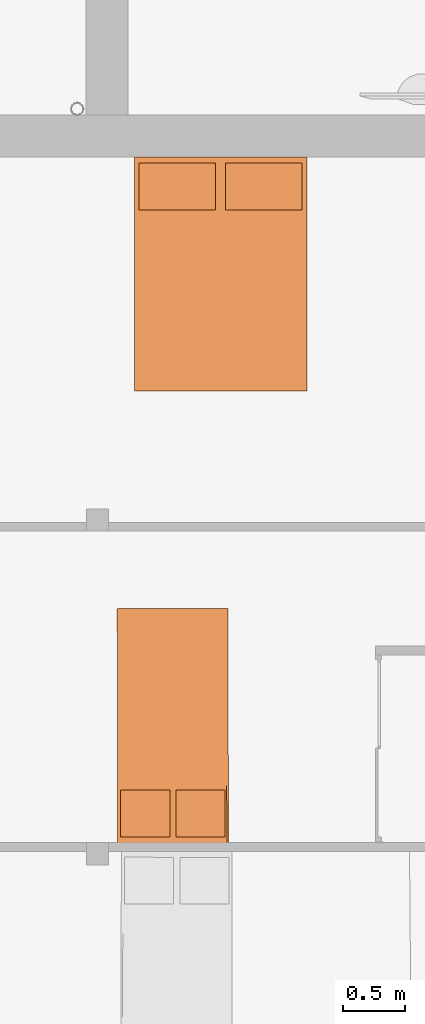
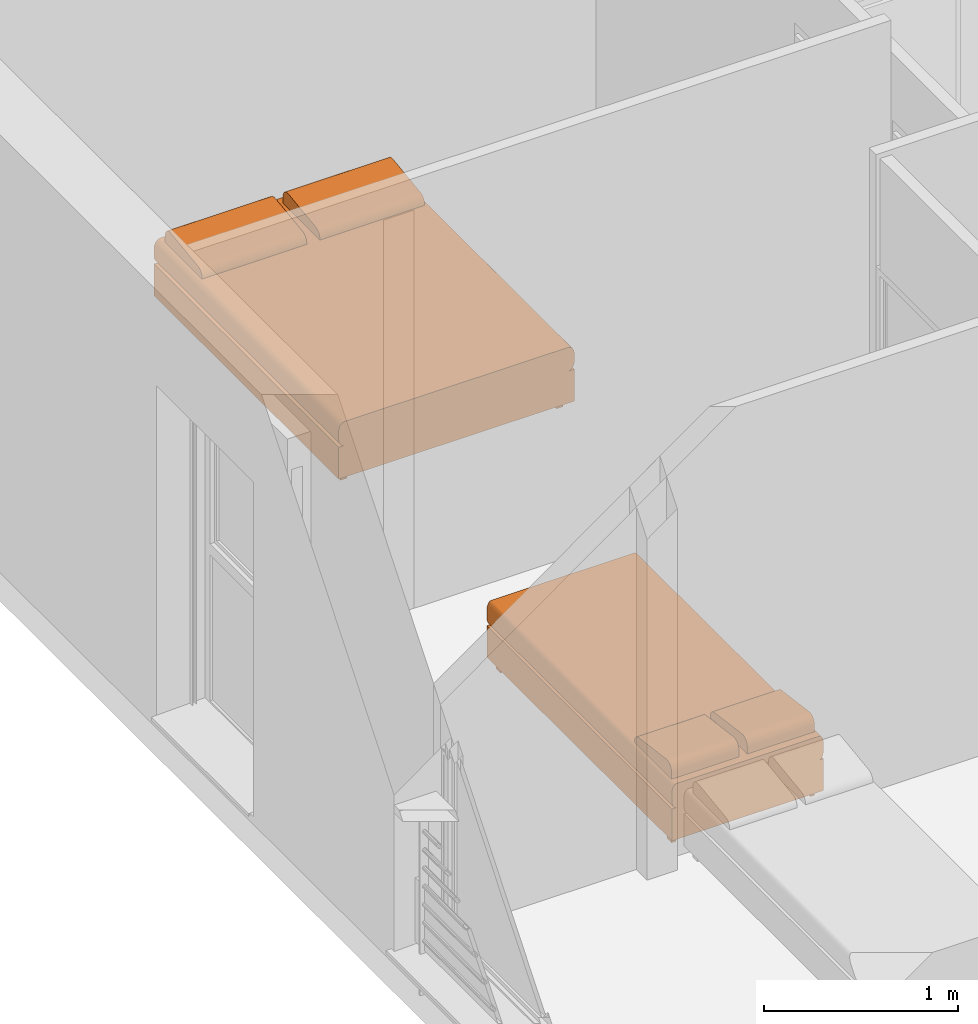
# One storey, part 149 of 171: 2 proxies.
"""IFC2X3 building model written with IfcOpenShell, lengths in millimetres."""

from ifc_helpers import new_model, entity, si_unit, converted_unit, derived_unit, money_unit, direction, frame, origin_with_axes, place, context, subcontext, project, spatial, open_shell, faceted_brep, surface_model, source, transform, mapped, type_object, element, save


model = new_model("IFC2X3")

# Units and contexts
model_context = context("Model", 3, precision=0.01, world=origin_with_axes(), true_north=direction((0.0, 1.0)))
body_context = subcontext(model_context, "Body", "Model", "MODEL_VIEW")
ifc_project = project(units=[si_unit("LENGTHUNIT", "METRE", prefix="MILLI"), si_unit("AREAUNIT", "SQUARE_METRE"), si_unit("VOLUMEUNIT", "CUBIC_METRE"), converted_unit("PLANEANGLEUNIT", "DEGREE", entity("IfcPlaneAngleMeasure", 0.0174532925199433), si_unit("PLANEANGLEUNIT", "RADIAN"), dimensions=[0, 0, 0, 0, 0, 0, 0]), money_unit("USD"), converted_unit("TIMEUNIT", "Year", entity("IfcTimeMeasure", 31557600.0), si_unit("TIMEUNIT", "SECOND"), dimensions=[0, 0, 1, 0, 0, 0, 0]), si_unit("MASSUNIT", "GRAM", prefix="KILO"), si_unit("THERMODYNAMICTEMPERATUREUNIT", "DEGREE_CELSIUS"), si_unit("LUMINOUSINTENSITYUNIT", "LUMEN"), si_unit("ENERGYUNIT", "JOULE", prefix="MEGA"), derived_unit("THERMALCONDUCTANCEUNIT", [(si_unit("POWERUNIT", "WATT"), 1), (si_unit("LENGTHUNIT", "METRE"), -1), (si_unit("THERMODYNAMICTEMPERATUREUNIT", "KELVIN"), -1)]), derived_unit("SPECIFICHEATCAPACITYUNIT", [(si_unit("ENERGYUNIT", "JOULE"), 1), (si_unit("MASSUNIT", "GRAM", prefix="KILO"), -1), (si_unit("THERMODYNAMICTEMPERATUREUNIT", "KELVIN"), -1)]), derived_unit("MASSDENSITYUNIT", [(si_unit("MASSUNIT", "GRAM", prefix="KILO"), 1), (si_unit("VOLUMEUNIT", "CUBIC_METRE"), -1)])], contexts=[model_context])

# Site, building, storey
site_placement = place(None, origin_with_axes())
site = spatial("IfcSite", under=ifc_project, at=site_placement, Name="Site", CompositionType="ELEMENT")
building_placement = place(site_placement, origin_with_axes())
building = spatial("IfcBuilding", under=site, at=building_placement, Name="Bâtiment", CompositionType="ELEMENT")
storey_placement = place(building_placement, frame((0.0, 0.0, 3000.0), z_axis=(0.0, 0.0, 1.0), x_axis=(1.0, 0.0, 0.0)))
storey = spatial("IfcBuildingStorey", under=building, at=storey_placement, Name="rdc", CompositionType="ELEMENT", Elevation=3000.0)

# Proxies
building_element_proxy_type = type_object("IfcBuildingElementProxyType", PredefinedType="NOTDEFINED")
shared_shape_1 = source(origin_with_axes(), body_context, "Body", "SurfaceModel", [
    faceted_brep([(-622.2222222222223, -95.0, 0.0), (-661.1111111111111, -95.0, 0.0), (-661.1111111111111, -47.5, 0.0), (-622.2222222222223, -47.5, 0.0), (-622.2222222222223, -95.0, 50.0), (-661.1111111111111, -95.0, 50.0), (-661.1111111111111, -47.5, 50.0), (-622.2222222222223, -47.5, 50.0)], [[[0, 1, 2, 3]], [[1, 0, 4, 5]], [[2, 1, 5, 6]], [[3, 2, 6, 7]], [[0, 3, 7, 4]], [[5, 4, 7, 6]]]),
    faceted_brep([(-622.2222222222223, -1852.5, 0.0), (-661.1111111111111, -1852.5, 0.0), (-661.1111111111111, -1805.0, 0.0), (-622.2222222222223, -1805.0, 0.0), (-622.2222222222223, -1852.5, 50.0), (-661.1111111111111, -1852.5, 50.0), (-661.1111111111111, -1805.0, 50.0), (-622.2222222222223, -1805.0, 50.0)], [[[0, 1, 2, 3]], [[1, 0, 4, 5]], [[2, 1, 5, 6]], [[3, 2, 6, 7]], [[0, 3, 7, 4]], [[5, 4, 7, 6]]]),
    faceted_brep([(661.111111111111, -1852.5, 0.0), (622.2222222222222, -1852.5, 0.0), (622.2222222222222, -1805.0, 0.0), (661.111111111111, -1805.0, 0.0), (661.111111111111, -1852.5, 50.0), (622.2222222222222, -1852.5, 50.0), (622.2222222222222, -1805.0, 50.0), (661.111111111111, -1805.0, 50.0)], [[[0, 1, 2, 3]], [[1, 0, 4, 5]], [[2, 1, 5, 6]], [[3, 2, 6, 7]], [[0, 3, 7, 4]], [[5, 4, 7, 6]]]),
    faceted_brep([(661.111111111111, -94.99999999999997, 0.0), (622.2222222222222, -94.99999999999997, 0.0), (622.2222222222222, -47.49999999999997, 0.0), (661.111111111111, -47.49999999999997, 0.0), (661.111111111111, -94.99999999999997, 50.0), (622.2222222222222, -94.99999999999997, 50.0), (622.2222222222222, -47.49999999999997, 50.0), (661.111111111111, -47.49999999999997, 50.0)], [[[0, 1, 2, 3]], [[1, 0, 4, 5]], [[2, 1, 5, 6]], [[3, 2, 6, 7]], [[0, 3, 7, 4]], [[5, 4, 7, 6]]]),
    faceted_brep([(-700.0, 0.0, 50.0), (700.0, 0.0, 50.0), (700.0, -1900.0, 50.00000000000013), (-700.0, -1900.0, 50.00000000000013), (-700.0, 0.0, 250.0), (700.0, 0.0, 250.0), (700.0, -1900.0, 250.0000000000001), (-700.0, -1900.0, 250.0000000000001)], [[[0, 1, 2, 3]], [[0, 4, 5, 1]], [[1, 5, 6, 2]], [[3, 2, 6, 7]], [[4, 0, 3, 7]], [[5, 4, 7, 6]]]),
    surface_model("IfcShellBasedSurfaceModel", [(661.1111111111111, 0.0, 250.0), (667.8640957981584, 0.0, 250.7596123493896), (667.8640957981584, -1900.0, 250.7596123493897), (661.1111111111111, -1900.0, 250.0000000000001), (-661.1111111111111, 0.0, 250.0), (-667.8640957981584, 0.0, 250.7596123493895), (-674.4118944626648, 0.0, 253.0153689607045), (-680.5555555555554, 0.0, 256.698729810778), (-686.1084070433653, 0.0, 261.6977778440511), (-690.9017283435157, 0.0, 267.860619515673), (-694.7898768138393, 0.0, 275.0), (-697.654713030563, 0.0, 282.8989928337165), (-699.4091903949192, 0.0, 291.3175911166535), (-700.0, 0.0, 300.0000000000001), (-700.0000000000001, 0.0, 350.0), (-699.4091903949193, 0.0, 358.6824088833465), (-697.654713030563, 0.0, 367.1010071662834), (-694.7898768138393, 0.0, 375.0), (-690.9017283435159, 0.0, 382.139380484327), (-686.1084070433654, 0.0, 388.3022221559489), (-680.5555555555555, 0.0, 393.301270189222), (-674.4118944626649, 0.0, 396.9846310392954), (-667.8640957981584, 0.0, 399.2403876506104), (-661.1111111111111, 0.0, 400.0), (661.111111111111, 0.0, 400.0000000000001), (667.8640957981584, 0.0, 399.2403876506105), (674.4118944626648, 0.0, 396.9846310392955), (680.5555555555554, 0.0, 393.301270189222), (686.1084070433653, 0.0, 388.3022221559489), (690.9017283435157, 0.0, 382.139380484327), (694.7898768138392, 0.0, 375.0000000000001), (697.654713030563, 0.0, 367.1010071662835), (699.4091903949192, 0.0, 358.6824088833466), (700.0, 0.0, 350.0000000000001), (700.0, 0.0, 300.0000000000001), (699.4091903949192, 0.0, 291.3175911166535), (697.654713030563, 0.0, 282.8989928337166), (694.7898768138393, 0.0, 275.0), (690.9017283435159, 0.0, 267.8606195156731), (686.1084070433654, 0.0, 261.6977778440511), (680.5555555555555, 0.0, 256.698729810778), (674.4118944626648, 0.0, 253.0153689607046), (674.4118944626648, -1900.0, 253.0153689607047), (-661.1111111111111, -1900.0, 250.0000000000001), (680.5555555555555, -1900.0, 256.6987298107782), (686.1084070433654, -1900.0, 261.6977778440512), (690.9017283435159, -1900.0, 267.8606195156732), (694.7898768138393, -1900.0, 275.0000000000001), (697.654713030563, -1900.0, 282.8989928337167), (699.4091903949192, -1900.0, 291.3175911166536), (700.0, -1900.0, 300.0000000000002), (700.0, -1900.0, 350.0000000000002), (699.4091903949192, -1900.0, 358.6824088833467), (697.654713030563, -1900.0, 367.1010071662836), (694.7898768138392, -1900.0, 375.0000000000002), (690.9017283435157, -1900.0, 382.1393804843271), (686.1084070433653, -1900.0, 388.302222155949), (680.5555555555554, -1900.0, 393.3012701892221), (674.4118944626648, -1900.0, 396.9846310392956), (667.8640957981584, -1900.0, 399.2403876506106), (661.111111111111, -1900.0, 400.0000000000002), (-661.1111111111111, -1900.0, 400.0000000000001), (-667.8640957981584, -1900.0, 399.2403876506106), (-674.4118944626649, -1900.0, 396.9846310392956), (-680.5555555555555, -1900.0, 393.3012701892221), (-686.1084070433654, -1900.0, 388.302222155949), (-690.9017283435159, -1900.0, 382.1393804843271), (-694.7898768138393, -1900.0, 375.0000000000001), (-697.654713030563, -1900.0, 367.1010071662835), (-699.4091903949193, -1900.0, 358.6824088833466), (-700.0000000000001, -1900.0, 350.0000000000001), (-700.0, -1900.0, 300.0000000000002), (-699.4091903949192, -1900.0, 291.3175911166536), (-697.654713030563, -1900.0, 282.8989928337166), (-694.7898768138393, -1900.0, 275.0000000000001), (-690.9017283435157, -1900.0, 267.8606195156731), (-686.1084070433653, -1900.0, 261.6977778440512), (-680.5555555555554, -1900.0, 256.6987298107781), (-674.4118944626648, -1900.0, 253.0153689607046), (-667.8640957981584, -1900.0, 250.7596123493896)], [open_shell([[[0, 1, 2, 3]], [[4, 5, 6, 7, 8, 9, 10, 11, 12, 13, 14, 15, 16, 17, 18, 19, 20, 21, 22, 23, 24, 25, 26, 27, 28, 29, 30, 31, 32, 33, 34, 35, 36, 37, 38, 39, 40, 41, 1, 0]], [[1, 41, 42, 2]], [[43, 3, 2, 42, 44, 45, 46, 47, 48, 49, 50, 51, 52, 53, 54, 55, 56, 57, 58, 59, 60, 61, 62, 63, 64, 65, 66, 67, 68, 69, 70, 71, 72, 73, 74, 75, 76, 77, 78, 79]], [[5, 4, 43, 79]], [[6, 5, 79, 78]], [[7, 6, 78, 77]], [[8, 7, 77, 76]], [[9, 8, 76, 75]], [[10, 9, 75, 74]], [[11, 10, 74, 73]], [[12, 11, 73, 72]], [[13, 12, 72, 71]], [[14, 13, 71, 70]], [[15, 14, 70, 69]], [[16, 15, 69, 68]], [[17, 16, 68, 67]], [[18, 17, 67, 66]], [[19, 18, 66, 65]], [[20, 19, 65, 64]], [[21, 20, 64, 63]], [[22, 21, 63, 62]], [[23, 22, 62, 61]], [[24, 23, 61, 60]], [[25, 24, 60, 59]], [[26, 25, 59, 58]], [[27, 26, 58, 57]], [[28, 27, 57, 56]], [[29, 28, 56, 55]], [[30, 29, 55, 54]], [[31, 30, 54, 53]], [[32, 31, 53, 52]], [[33, 32, 52, 51]], [[34, 33, 51, 50]], [[35, 34, 50, 49]], [[36, 35, 49, 48]], [[37, 36, 48, 47]], [[38, 37, 47, 46]], [[39, 38, 46, 45]], [[40, 39, 45, 44]], [[41, 40, 44, 42]]])]),
    faceted_brep([(38.88888888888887, -47.49999999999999, 400.0), (38.88888888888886, -47.49999999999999, 443.4), (661.1111111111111, -47.50000000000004, 443.4000000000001), (661.1111111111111, -47.50000000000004, 400.0000000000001), (38.88888888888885, -427.5, 400.0), (38.88888888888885, -427.6960812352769, 408.695442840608), (38.88888888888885, -426.4675711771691, 417.2966661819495), (38.88888888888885, -423.8511300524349, 425.5469991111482), (38.88888888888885, -419.9248356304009, 433.2002417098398), (38.88888888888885, -414.8058532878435, 440.0280119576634), (38.88888888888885, -408.6469396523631, 445.826560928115), (38.88888888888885, -401.6318841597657, 450.4228529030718), (38.88888888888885, -393.9700245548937, 453.6797289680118), (38.88888888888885, -385.89, 455.5), (38.88888888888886, -100.89, 493.0000000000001), (38.88888888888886, -92.85488048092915, 493.3370808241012), (38.88888888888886, -84.88093291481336, 492.2422169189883), (38.88888888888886, -77.19681007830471, 489.7468034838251), (38.88888888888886, -70.02285403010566, 485.922396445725), (38.88888888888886, -63.56477780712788, 480.878660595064), (38.88888888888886, -58.00776660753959, 474.7602249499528), (38.88888888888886, -53.51116760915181, 467.7425355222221), (38.88888888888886, -50.20392069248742, 460.0268244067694), (38.88888888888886, -48.18086109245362, 451.834339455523), (661.1111111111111, -48.18086109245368, 451.8343394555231), (661.1111111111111, -50.20392069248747, 460.0268244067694), (661.1111111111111, -53.51116760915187, 467.7425355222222), (661.1111111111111, -58.00776660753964, 474.7602249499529), (661.1111111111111, -63.56477780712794, 480.878660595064), (661.1111111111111, -70.02285403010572, 485.922396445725), (661.1111111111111, -77.19681007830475, 489.7468034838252), (661.1111111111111, -84.88093291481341, 492.2422169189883), (661.1111111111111, -92.85488048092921, 493.3370808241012), (661.1111111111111, -100.8900000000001, 493.0000000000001), (661.1111111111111, -385.89, 455.5000000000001), (661.1111111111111, -393.9700245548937, 453.6797289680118), (661.1111111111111, -401.6318841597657, 450.4228529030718), (661.1111111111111, -408.6469396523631, 445.826560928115), (661.1111111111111, -414.8058532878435, 440.0280119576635), (661.1111111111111, -419.924835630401, 433.2002417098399), (661.1111111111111, -423.8511300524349, 425.5469991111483), (661.1111111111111, -426.4675711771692, 417.2966661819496), (661.1111111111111, -427.6960812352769, 408.6954428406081), (661.1111111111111, -427.5, 400.0000000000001)], [[[0, 1, 2, 3]], [[0, 4, 5, 6, 7, 8, 9, 10, 11, 12, 13, 14, 15, 16, 17, 18, 19, 20, 21, 22, 23, 1]], [[1, 23, 24, 2]], [[3, 2, 24, 25, 26, 27, 28, 29, 30, 31, 32, 33, 34, 35, 36, 37, 38, 39, 40, 41, 42, 43]], [[4, 0, 3, 43]], [[5, 4, 43, 42]], [[6, 5, 42, 41]], [[7, 6, 41, 40]], [[8, 7, 40, 39]], [[9, 8, 39, 38]], [[10, 9, 38, 37]], [[11, 10, 37, 36]], [[12, 11, 36, 35]], [[13, 12, 35, 34]], [[14, 13, 34, 33]], [[15, 14, 33, 32]], [[16, 15, 32, 31]], [[17, 16, 31, 30]], [[18, 17, 30, 29]], [[19, 18, 29, 28]], [[20, 19, 28, 27]], [[21, 20, 27, 26]], [[22, 21, 26, 25]], [[23, 22, 25, 24]]]),
    faceted_brep([(-661.1111111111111, -47.49999999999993, 399.9999999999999), (-661.1111111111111, -47.49999999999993, 443.4), (-38.88888888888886, -47.49999999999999, 443.4), (-38.88888888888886, -47.49999999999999, 400.0), (-661.1111111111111, -427.4999999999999, 399.9999999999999), (-661.1111111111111, -427.6960812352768, 408.6954428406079), (-661.1111111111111, -426.4675711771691, 417.2966661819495), (-661.1111111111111, -423.8511300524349, 425.5469991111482), (-661.1111111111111, -419.9248356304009, 433.2002417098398), (-661.1111111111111, -414.8058532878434, 440.0280119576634), (-661.1111111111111, -408.646939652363, 445.8265609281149), (-661.1111111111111, -401.6318841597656, 450.4228529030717), (-661.1111111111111, -393.9700245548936, 453.6797289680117), (-661.1111111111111, -385.8899999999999, 455.4999999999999), (-661.1111111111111, -100.89, 493.0), (-661.1111111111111, -92.8548804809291, 493.3370808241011), (-661.1111111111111, -84.8809329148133, 492.2422169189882), (-661.1111111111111, -77.19681007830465, 489.7468034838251), (-661.1111111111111, -70.0228540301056, 485.9223964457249), (-661.1111111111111, -63.56477780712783, 480.8786605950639), (-661.1111111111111, -58.00776660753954, 474.7602249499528), (-661.1111111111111, -53.51116760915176, 467.7425355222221), (-661.1111111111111, -50.20392069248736, 460.0268244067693), (-661.1111111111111, -48.18086109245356, 451.834339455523), (-38.88888888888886, -48.18086109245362, 451.834339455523), (-38.88888888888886, -50.20392069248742, 460.0268244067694), (-38.88888888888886, -53.51116760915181, 467.7425355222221), (-38.88888888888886, -58.00776660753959, 474.7602249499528), (-38.88888888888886, -63.56477780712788, 480.878660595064), (-38.88888888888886, -70.02285403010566, 485.922396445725), (-38.88888888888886, -77.19681007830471, 489.7468034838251), (-38.88888888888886, -84.88093291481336, 492.2422169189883), (-38.88888888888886, -92.85488048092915, 493.3370808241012), (-38.88888888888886, -100.89, 493.0000000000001), (-38.88888888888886, -385.8899999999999, 455.5), (-38.88888888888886, -393.9700245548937, 453.6797289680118), (-38.88888888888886, -401.6318841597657, 450.4228529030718), (-38.88888888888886, -408.6469396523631, 445.826560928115), (-38.88888888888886, -414.8058532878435, 440.0280119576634), (-38.88888888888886, -419.9248356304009, 433.2002417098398), (-38.88888888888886, -423.8511300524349, 425.5469991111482), (-38.88888888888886, -426.4675711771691, 417.2966661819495), (-38.88888888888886, -427.6960812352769, 408.695442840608), (-38.88888888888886, -427.4999999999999, 400.0)], [[[0, 1, 2, 3]], [[0, 4, 5, 6, 7, 8, 9, 10, 11, 12, 13, 14, 15, 16, 17, 18, 19, 20, 21, 22, 23, 1]], [[1, 23, 24, 2]], [[3, 2, 24, 25, 26, 27, 28, 29, 30, 31, 32, 33, 34, 35, 36, 37, 38, 39, 40, 41, 42, 43]], [[4, 0, 3, 43]], [[5, 4, 43, 42]], [[6, 5, 42, 41]], [[7, 6, 41, 40]], [[8, 7, 40, 39]], [[9, 8, 39, 38]], [[10, 9, 38, 37]], [[11, 10, 37, 36]], [[12, 11, 36, 35]], [[13, 12, 35, 34]], [[14, 13, 34, 33]], [[15, 14, 33, 32]], [[16, 15, 32, 31]], [[17, 16, 31, 30]], [[18, 17, 30, 29]], [[19, 18, 29, 28]], [[20, 19, 28, 27]], [[21, 20, 27, 26]], [[22, 21, 26, 25]], [[23, 22, 25, 24]]]),
])
proxy_1_placement = place(storey_placement, frame((2219225.881810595, -644356.4780863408, 0.0), z_axis=(0.0, 0.0, 1.0), x_axis=(0.9999999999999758, -2.201927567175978e-07, 0.0)))
element("IfcBuildingElementProxy", 1, at=proxy_1_placement, inside=storey, type_object=building_element_proxy_type, Name="Obj.-003", context=body_context, shape_type="MappedRepresentation", body=[
    mapped(shared_shape_1, transform((0.0, 0.0, 0.0))),
])
shared_shape_2 = source(origin_with_axes(), body_context, "Body", "SurfaceModel", [
    faceted_brep([(-400.0, -95.0, 0.0), (-425.0000000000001, -95.0, 0.0), (-425.0000000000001, -47.5, 0.0), (-400.0, -47.5, 0.0), (-400.0, -95.0, 50.0), (-425.0000000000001, -95.0, 50.0), (-425.0000000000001, -47.5, 50.0), (-400.0, -47.5, 50.0)], [[[0, 1, 2, 3]], [[1, 0, 4, 5]], [[2, 1, 5, 6]], [[3, 2, 6, 7]], [[0, 3, 7, 4]], [[5, 4, 7, 6]]]),
    faceted_brep([(-400.0, -1852.5, 0.0), (-425.0000000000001, -1852.5, 0.0), (-425.0000000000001, -1805.0, 0.0), (-400.0, -1805.0, 0.0), (-400.0, -1852.5, 50.0), (-425.0000000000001, -1852.5, 50.0), (-425.0000000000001, -1805.0, 50.0), (-400.0, -1805.0, 50.0)], [[[0, 1, 2, 3]], [[1, 0, 4, 5]], [[2, 1, 5, 6]], [[3, 2, 6, 7]], [[0, 3, 7, 4]], [[5, 4, 7, 6]]]),
    faceted_brep([(425.0000000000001, -1852.5, 0.0), (400.0, -1852.5, 0.0), (400.0, -1805.0, 0.0), (425.0000000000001, -1805.0, 0.0), (425.0000000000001, -1852.5, 50.0), (400.0, -1852.5, 50.0), (400.0, -1805.0, 50.0), (425.0000000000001, -1805.0, 50.0)], [[[0, 1, 2, 3]], [[1, 0, 4, 5]], [[2, 1, 5, 6]], [[3, 2, 6, 7]], [[0, 3, 7, 4]], [[5, 4, 7, 6]]]),
    faceted_brep([(425.0000000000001, -94.99999999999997, 0.0), (400.0, -94.99999999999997, 0.0), (400.0, -47.49999999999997, 0.0), (425.0000000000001, -47.49999999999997, 0.0), (425.0000000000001, -94.99999999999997, 50.0), (400.0, -94.99999999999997, 50.0), (400.0, -47.49999999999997, 50.0), (425.0000000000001, -47.49999999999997, 50.0)], [[[0, 1, 2, 3]], [[1, 0, 4, 5]], [[2, 1, 5, 6]], [[3, 2, 6, 7]], [[0, 3, 7, 4]], [[5, 4, 7, 6]]]),
    faceted_brep([(-450.0, 0.0, 50.0), (450.0, 0.0, 50.0), (450.0, -1900.0, 50.00000000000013), (-450.0, -1900.0, 50.00000000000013), (-450.0, 0.0, 250.0), (450.0, 0.0, 250.0), (450.0, -1900.0, 250.0000000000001), (-450.0, -1900.0, 250.0000000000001)], [[[0, 1, 2, 3]], [[0, 4, 5, 1]], [[1, 5, 6, 2]], [[3, 2, 6, 7]], [[4, 0, 3, 7]], [[5, 4, 7, 6]]]),
    surface_model("IfcShellBasedSurfaceModel", [(425.0000000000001, 0.0, 250.0), (429.3412044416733, 0.0, 250.7596123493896), (429.3412044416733, -1900.0, 250.7596123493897), (425.0000000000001, -1900.0, 250.0000000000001), (-425.0000000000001, 0.0, 250.0), (-429.3412044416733, 0.0, 250.7596123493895), (-433.5505035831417, 0.0, 253.0153689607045), (-437.5, 0.0, 256.698729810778), (-441.0696902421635, 0.0, 261.6977778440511), (-444.1511110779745, 0.0, 267.860619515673), (-446.650635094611, 0.0, 275.0), (-448.4923155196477, 0.0, 282.8989928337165), (-449.6201938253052, 0.0, 291.3175911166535), (-450.0, 0.0, 300.0000000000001), (-450.0000000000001, 0.0, 350.0), (-449.6201938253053, 0.0, 358.6824088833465), (-448.4923155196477, 0.0, 367.1010071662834), (-446.650635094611, 0.0, 375.0), (-444.1511110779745, 0.0, 382.139380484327), (-441.0696902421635, 0.0, 388.3022221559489), (-437.5000000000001, 0.0, 393.301270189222), (-433.5505035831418, 0.0, 396.9846310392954), (-429.3412044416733, 0.0, 399.2403876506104), (-425.0000000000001, 0.0, 400.0), (425.0, 0.0, 400.0000000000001), (429.3412044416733, 0.0, 399.2403876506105), (433.5505035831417, 0.0, 396.9846310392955), (437.5, 0.0, 393.301270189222), (441.0696902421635, 0.0, 388.3022221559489), (444.1511110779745, 0.0, 382.139380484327), (446.6506350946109, 0.0, 375.0000000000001), (448.4923155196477, 0.0, 367.1010071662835), (449.6201938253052, 0.0, 358.6824088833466), (450.0, 0.0, 350.0000000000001), (450.0, 0.0, 300.0000000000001), (449.6201938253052, 0.0, 291.3175911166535), (448.4923155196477, 0.0, 282.8989928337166), (446.650635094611, 0.0, 275.0), (444.1511110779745, 0.0, 267.8606195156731), (441.0696902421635, 0.0, 261.6977778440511), (437.5000000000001, 0.0, 256.698729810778), (433.5505035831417, 0.0, 253.0153689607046), (433.5505035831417, -1900.0, 253.0153689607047), (-425.0000000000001, -1900.0, 250.0000000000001), (437.5000000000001, -1900.0, 256.6987298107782), (441.0696902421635, -1900.0, 261.6977778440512), (444.1511110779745, -1900.0, 267.8606195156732), (446.650635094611, -1900.0, 275.0000000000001), (448.4923155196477, -1900.0, 282.8989928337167), (449.6201938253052, -1900.0, 291.3175911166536), (450.0, -1900.0, 300.0000000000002), (450.0, -1900.0, 350.0000000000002), (449.6201938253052, -1900.0, 358.6824088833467), (448.4923155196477, -1900.0, 367.1010071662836), (446.6506350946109, -1900.0, 375.0000000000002), (444.1511110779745, -1900.0, 382.1393804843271), (441.0696902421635, -1900.0, 388.302222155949), (437.5, -1900.0, 393.3012701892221), (433.5505035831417, -1900.0, 396.9846310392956), (429.3412044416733, -1900.0, 399.2403876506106), (425.0, -1900.0, 400.0000000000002), (-425.0000000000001, -1900.0, 400.0000000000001), (-429.3412044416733, -1900.0, 399.2403876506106), (-433.5505035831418, -1900.0, 396.9846310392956), (-437.5000000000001, -1900.0, 393.3012701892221), (-441.0696902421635, -1900.0, 388.302222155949), (-444.1511110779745, -1900.0, 382.1393804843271), (-446.650635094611, -1900.0, 375.0000000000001), (-448.4923155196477, -1900.0, 367.1010071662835), (-449.6201938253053, -1900.0, 358.6824088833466), (-450.0000000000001, -1900.0, 350.0000000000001), (-450.0, -1900.0, 300.0000000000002), (-449.6201938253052, -1900.0, 291.3175911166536), (-448.4923155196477, -1900.0, 282.8989928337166), (-446.650635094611, -1900.0, 275.0000000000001), (-444.1511110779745, -1900.0, 267.8606195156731), (-441.0696902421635, -1900.0, 261.6977778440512), (-437.5, -1900.0, 256.6987298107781), (-433.5505035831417, -1900.0, 253.0153689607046), (-429.3412044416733, -1900.0, 250.7596123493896)], [open_shell([[[0, 1, 2, 3]], [[4, 5, 6, 7, 8, 9, 10, 11, 12, 13, 14, 15, 16, 17, 18, 19, 20, 21, 22, 23, 24, 25, 26, 27, 28, 29, 30, 31, 32, 33, 34, 35, 36, 37, 38, 39, 40, 41, 1, 0]], [[1, 41, 42, 2]], [[43, 3, 2, 42, 44, 45, 46, 47, 48, 49, 50, 51, 52, 53, 54, 55, 56, 57, 58, 59, 60, 61, 62, 63, 64, 65, 66, 67, 68, 69, 70, 71, 72, 73, 74, 75, 76, 77, 78, 79]], [[5, 4, 43, 79]], [[6, 5, 79, 78]], [[7, 6, 78, 77]], [[8, 7, 77, 76]], [[9, 8, 76, 75]], [[10, 9, 75, 74]], [[11, 10, 74, 73]], [[12, 11, 73, 72]], [[13, 12, 72, 71]], [[14, 13, 71, 70]], [[15, 14, 70, 69]], [[16, 15, 69, 68]], [[17, 16, 68, 67]], [[18, 17, 67, 66]], [[19, 18, 66, 65]], [[20, 19, 65, 64]], [[21, 20, 64, 63]], [[22, 21, 63, 62]], [[23, 22, 62, 61]], [[24, 23, 61, 60]], [[25, 24, 60, 59]], [[26, 25, 59, 58]], [[27, 26, 58, 57]], [[28, 27, 57, 56]], [[29, 28, 56, 55]], [[30, 29, 55, 54]], [[31, 30, 54, 53]], [[32, 31, 53, 52]], [[33, 32, 52, 51]], [[34, 33, 51, 50]], [[35, 34, 50, 49]], [[36, 35, 49, 48]], [[37, 36, 48, 47]], [[38, 37, 47, 46]], [[39, 38, 46, 45]], [[40, 39, 45, 44]], [[41, 40, 44, 42]]])]),
    faceted_brep([(24.99999999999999, -47.49999999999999, 400.0), (24.99999999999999, -47.49999999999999, 443.4), (425.0, -47.50000000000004, 443.4000000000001), (425.0, -47.50000000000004, 400.0000000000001), (24.99999999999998, -427.5, 400.0), (24.99999999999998, -427.6960812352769, 408.695442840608), (24.99999999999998, -426.4675711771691, 417.2966661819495), (24.99999999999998, -423.8511300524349, 425.5469991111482), (24.99999999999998, -419.9248356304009, 433.2002417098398), (24.99999999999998, -414.8058532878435, 440.0280119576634), (24.99999999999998, -408.6469396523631, 445.826560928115), (24.99999999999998, -401.6318841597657, 450.4228529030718), (24.99999999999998, -393.9700245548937, 453.6797289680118), (24.99999999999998, -385.89, 455.5), (24.99999999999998, -100.89, 493.0000000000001), (24.99999999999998, -92.85488048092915, 493.3370808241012), (24.99999999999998, -84.88093291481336, 492.2422169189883), (24.99999999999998, -77.19681007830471, 489.7468034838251), (24.99999999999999, -70.02285403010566, 485.922396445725), (24.99999999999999, -63.56477780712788, 480.878660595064), (24.99999999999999, -58.00776660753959, 474.7602249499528), (24.99999999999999, -53.51116760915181, 467.7425355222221), (24.99999999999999, -50.20392069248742, 460.0268244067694), (24.99999999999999, -48.18086109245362, 451.834339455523), (425.0, -48.18086109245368, 451.8343394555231), (425.0, -50.20392069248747, 460.0268244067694), (425.0, -53.51116760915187, 467.7425355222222), (425.0, -58.00776660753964, 474.7602249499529), (425.0, -63.56477780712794, 480.878660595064), (425.0, -70.02285403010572, 485.922396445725), (425.0, -77.19681007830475, 489.7468034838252), (425.0, -84.88093291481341, 492.2422169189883), (425.0, -92.85488048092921, 493.3370808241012), (425.0, -100.8900000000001, 493.0000000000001), (425.0, -385.89, 455.5000000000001), (425.0, -393.9700245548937, 453.6797289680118), (425.0, -401.6318841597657, 450.4228529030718), (425.0, -408.6469396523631, 445.826560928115), (425.0, -414.8058532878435, 440.0280119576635), (425.0, -419.924835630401, 433.2002417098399), (425.0, -423.8511300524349, 425.5469991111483), (425.0, -426.4675711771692, 417.2966661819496), (425.0, -427.6960812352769, 408.6954428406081), (425.0, -427.5, 400.0000000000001)], [[[0, 1, 2, 3]], [[0, 4, 5, 6, 7, 8, 9, 10, 11, 12, 13, 14, 15, 16, 17, 18, 19, 20, 21, 22, 23, 1]], [[1, 23, 24, 2]], [[3, 2, 24, 25, 26, 27, 28, 29, 30, 31, 32, 33, 34, 35, 36, 37, 38, 39, 40, 41, 42, 43]], [[4, 0, 3, 43]], [[5, 4, 43, 42]], [[6, 5, 42, 41]], [[7, 6, 41, 40]], [[8, 7, 40, 39]], [[9, 8, 39, 38]], [[10, 9, 38, 37]], [[11, 10, 37, 36]], [[12, 11, 36, 35]], [[13, 12, 35, 34]], [[14, 13, 34, 33]], [[15, 14, 33, 32]], [[16, 15, 32, 31]], [[17, 16, 31, 30]], [[18, 17, 30, 29]], [[19, 18, 29, 28]], [[20, 19, 28, 27]], [[21, 20, 27, 26]], [[22, 21, 26, 25]], [[23, 22, 25, 24]]]),
    faceted_brep([(-425.0000000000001, -47.49999999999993, 399.9999999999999), (-425.0000000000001, -47.49999999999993, 443.4), (-25.00000000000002, -47.49999999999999, 443.4), (-25.00000000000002, -47.49999999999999, 400.0), (-425.0000000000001, -427.4999999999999, 399.9999999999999), (-425.0000000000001, -427.6960812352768, 408.6954428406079), (-425.0000000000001, -426.4675711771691, 417.2966661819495), (-425.0000000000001, -423.8511300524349, 425.5469991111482), (-425.0000000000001, -419.9248356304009, 433.2002417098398), (-425.0000000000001, -414.8058532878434, 440.0280119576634), (-425.0000000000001, -408.646939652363, 445.8265609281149), (-425.0000000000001, -401.6318841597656, 450.4228529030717), (-425.0000000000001, -393.9700245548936, 453.6797289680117), (-425.0000000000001, -385.8899999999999, 455.4999999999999), (-425.0000000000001, -100.89, 493.0), (-425.0000000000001, -92.8548804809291, 493.3370808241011), (-425.0000000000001, -84.8809329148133, 492.2422169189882), (-425.0000000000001, -77.19681007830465, 489.7468034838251), (-425.0000000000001, -70.0228540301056, 485.9223964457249), (-425.0000000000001, -63.56477780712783, 480.8786605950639), (-425.0000000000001, -58.00776660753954, 474.7602249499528), (-425.0000000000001, -53.51116760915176, 467.7425355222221), (-425.0000000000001, -50.20392069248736, 460.0268244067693), (-425.0000000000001, -48.18086109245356, 451.834339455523), (-25.00000000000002, -48.18086109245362, 451.834339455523), (-25.00000000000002, -50.20392069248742, 460.0268244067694), (-25.00000000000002, -53.51116760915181, 467.7425355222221), (-25.00000000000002, -58.00776660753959, 474.7602249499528), (-25.00000000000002, -63.56477780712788, 480.878660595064), (-25.00000000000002, -70.02285403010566, 485.922396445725), (-25.00000000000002, -77.19681007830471, 489.7468034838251), (-25.00000000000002, -84.88093291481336, 492.2422169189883), (-25.00000000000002, -92.85488048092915, 493.3370808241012), (-25.00000000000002, -100.89, 493.0000000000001), (-25.00000000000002, -385.8899999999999, 455.5), (-25.00000000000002, -393.9700245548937, 453.6797289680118), (-25.00000000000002, -401.6318841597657, 450.4228529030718), (-25.00000000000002, -408.6469396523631, 445.826560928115), (-25.00000000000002, -414.8058532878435, 440.0280119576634), (-25.00000000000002, -419.9248356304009, 433.2002417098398), (-25.00000000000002, -423.8511300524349, 425.5469991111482), (-25.00000000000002, -426.4675711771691, 417.2966661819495), (-25.00000000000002, -427.6960812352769, 408.695442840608), (-25.00000000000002, -427.4999999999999, 400.0)], [[[0, 1, 2, 3]], [[0, 4, 5, 6, 7, 8, 9, 10, 11, 12, 13, 14, 15, 16, 17, 18, 19, 20, 21, 22, 23, 1]], [[1, 23, 24, 2]], [[3, 2, 24, 25, 26, 27, 28, 29, 30, 31, 32, 33, 34, 35, 36, 37, 38, 39, 40, 41, 42, 43]], [[4, 0, 3, 43]], [[5, 4, 43, 42]], [[6, 5, 42, 41]], [[7, 6, 41, 40]], [[8, 7, 40, 39]], [[9, 8, 39, 38]], [[10, 9, 38, 37]], [[11, 10, 37, 36]], [[12, 11, 36, 35]], [[13, 12, 35, 34]], [[14, 13, 34, 33]], [[15, 14, 33, 32]], [[16, 15, 32, 31]], [[17, 16, 31, 30]], [[18, 17, 30, 29]], [[19, 18, 29, 28]], [[20, 19, 28, 27]], [[21, 20, 27, 26]], [[22, 21, 26, 25]], [[23, 22, 25, 24]]]),
])
proxy_2_placement = place(storey_placement, frame((2218839.233166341, -649921.3084340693, 0.0), z_axis=(0.0, 0.0, 1.0), x_axis=(-0.9999996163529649, -0.0008759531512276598, 0.0)))
element("IfcBuildingElementProxy", 2, at=proxy_2_placement, inside=storey, type_object=building_element_proxy_type, Name="Obj.-003", context=body_context, shape_type="MappedRepresentation", body=[
    mapped(shared_shape_2, transform((0.0, 0.0, 0.0))),
])

save(model, "model.ifc")
